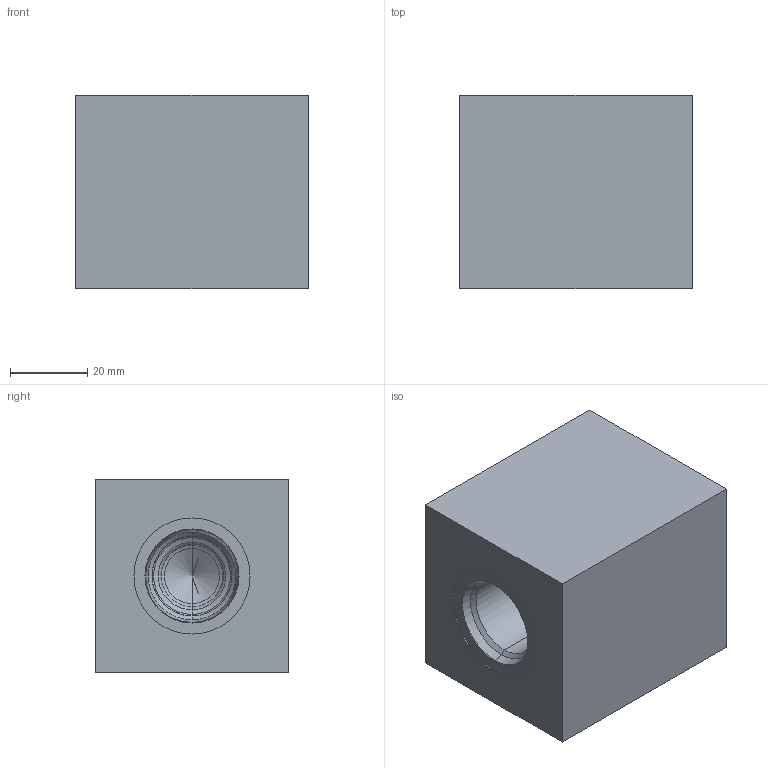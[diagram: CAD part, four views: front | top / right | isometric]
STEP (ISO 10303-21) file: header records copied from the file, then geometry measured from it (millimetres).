
FILE_DESCRIPTION (( 'STEP AP214' ), '1' );
FILE_NAME ('5-3128.4_BESPU10.STEP', '2017-04-28T05:14:24', ( '' ), ( '' ), 'SwSTEP 2.0', 'SolidWorks 2016', '' );
FILE_SCHEMA (( 'AUTOMOTIVE_DESIGN' ));
Length unit declared in the file: millimetre
Products named in the file (1): 5-3128.4_BESPU10
Bounding box: 60 x 50 x 50 mm (x, y, z)
Volume: 135500.5 mm3; surface area: 19996 mm2
Topology: 1 solids, 1 shells, 33 faces, 73 edges, 41 vertices
Faces by surface type: cylinder 10, cone 10, plane 7, torus 6
Entity records: 1086 total; most frequent: CARTESIAN_POINT 226, DIRECTION 170, ORIENTED_EDGE 142, EDGE_CURVE 71, AXIS2_PLACEMENT_3D 69, VERTEX_POINT 41, EDGE_LOOP 36, CIRCLE 35
